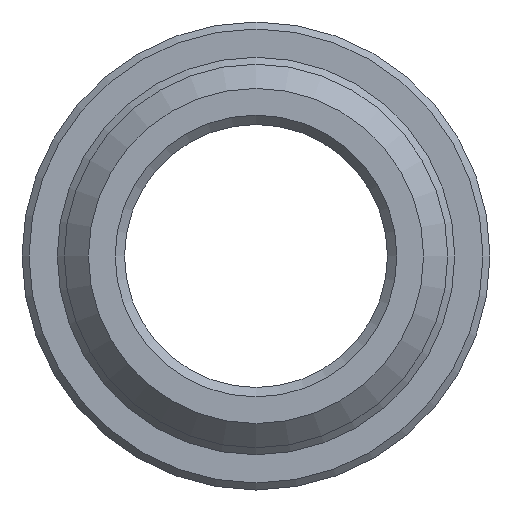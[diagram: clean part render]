
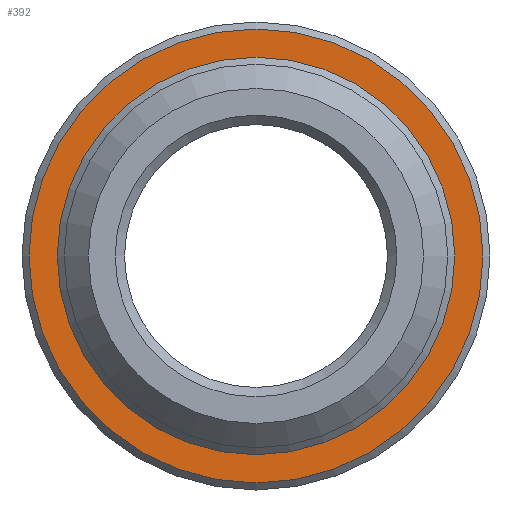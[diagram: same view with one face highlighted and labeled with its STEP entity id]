
A CAD part, front view. The second image highlights one B-rep face of the part: STEP entity #392.
In plain terms, the highlighted planar face has unit normal (0, -1, 0).
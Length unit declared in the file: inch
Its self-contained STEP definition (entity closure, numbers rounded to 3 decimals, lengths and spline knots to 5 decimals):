
#33=FACE_BOUND('',#86,.T.);
#44=PLANE('',#443);
#60=FACE_OUTER_BOUND('',#85,.T.);
#85=EDGE_LOOP('',(#316));
#86=EDGE_LOOP('',(#317));
#158=CIRCLE('',#442,0.4247);
#159=CIRCLE('',#444,0.485);
#195=VERTEX_POINT('',#678);
#196=VERTEX_POINT('',#682);
#243=EDGE_CURVE('',#195,#195,#158,.T.);
#244=EDGE_CURVE('',#196,#196,#159,.T.);
#316=ORIENTED_EDGE('',*,*,#244,.F.);
#317=ORIENTED_EDGE('',*,*,#243,.F.);
#392=ADVANCED_FACE('',(#60,#33),#44,.T.);
#442=AXIS2_PLACEMENT_3D('',#680,#536,#537);
#443=AXIS2_PLACEMENT_3D('',#681,#538,#539);
#444=AXIS2_PLACEMENT_3D('',#683,#540,#541);
#536=DIRECTION('center_axis',(0.,-1.,0.));
#537=DIRECTION('ref_axis',(0.,0.,-1.));
#538=DIRECTION('center_axis',(0.,-1.,0.));
#539=DIRECTION('ref_axis',(0.,0.,-1.));
#540=DIRECTION('center_axis',(0.,1.,0.));
#541=DIRECTION('ref_axis',(0.,0.,1.));
#678=CARTESIAN_POINT('',(0.,11.5,0.4247));
#680=CARTESIAN_POINT('Origin',(0.,11.5,0.));
#681=CARTESIAN_POINT('Origin',(0.,11.5,-0.42));
#682=CARTESIAN_POINT('',(0.,11.5,-0.485));
#683=CARTESIAN_POINT('Origin',(0.,11.5,0.));
